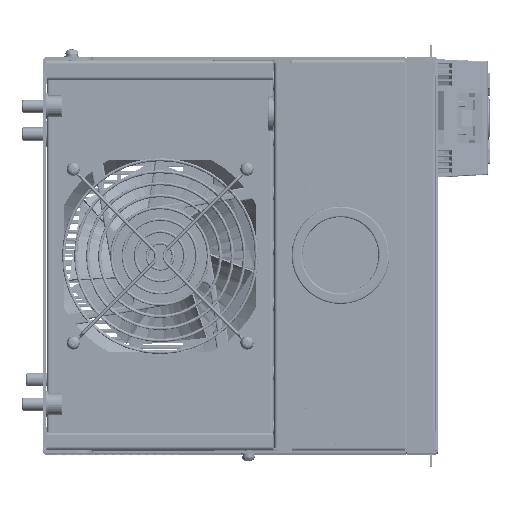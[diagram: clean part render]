
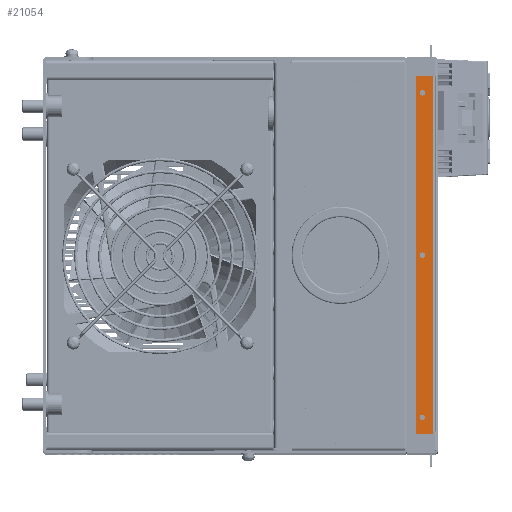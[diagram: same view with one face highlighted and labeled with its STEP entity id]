
A CAD part, top view. The second image highlights one B-rep face of the part: STEP entity #21054.
In plain terms, the highlighted planar face has unit normal (0, 0, 1) as drawn and (0, -1, 0) by its records, which use the part's own axes.
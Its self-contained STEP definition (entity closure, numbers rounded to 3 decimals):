
#4169 = EDGE_CURVE ( 'NONE', #134283, #94419, #17187, .T. ) ;
#11152 = ORIENTED_EDGE ( 'NONE', *, *, #43617, .F. ) ;
#12302 = ORIENTED_EDGE ( 'NONE', *, *, #25440, .F. ) ;
#13213 = DIRECTION ( 'NONE',  ( 0., 0., 1. ) ) ;
#15390 = CIRCLE ( 'NONE', #274985, 1.65 ) ;
#16403 = AXIS2_PLACEMENT_3D ( 'NONE', #294779, #157751, #20810 ) ;
#17187 = LINE ( 'NONE', #48702, #92526 ) ;
#17479 = VERTEX_POINT ( 'NONE', #196697 ) ;
#20810 = DIRECTION ( 'NONE',  ( 0., 0., -1. ) ) ;
#21054 = ADVANCED_FACE ( 'NONE', ( #225677, #232859, #286363, #50295 ), #243810, .T. ) ;
#25440 = EDGE_CURVE ( 'NONE', #101013, #159792, #165494, .T. ) ;
#33404 = CIRCLE ( 'NONE', #67736, 1.65 ) ;
#34847 = CARTESIAN_POINT ( 'NONE',  ( -108., -117.75, -1.7 ) ) ;
#36729 = CARTESIAN_POINT ( 'NONE',  ( 0., -117.75, 0. ) ) ;
#39673 = DIRECTION ( 'NONE',  ( -1., 0., 0. ) ) ;
#43617 = EDGE_CURVE ( 'NONE', #165559, #94419, #46604, .T. ) ;
#43813 = ORIENTED_EDGE ( 'NONE', *, *, #138802, .F. ) ;
#46604 = LINE ( 'NONE', #192217, #282678 ) ;
#47033 = VECTOR ( 'NONE', #233938, 1000. ) ;
#47230 = CARTESIAN_POINT ( 'NONE',  ( -98., -117.75, -9.65 ) ) ;
#47831 = DIRECTION ( 'NONE',  ( 0., -1., 0. ) ) ;
#48702 = CARTESIAN_POINT ( 'NONE',  ( 0., -117.75, -1.7 ) ) ;
#48838 = ORIENTED_EDGE ( 'NONE', *, *, #210475, .T. ) ;
#49002 = LINE ( 'NONE', #153665, #285053 ) ;
#50295 = FACE_BOUND ( 'NONE', #119806, .T. ) ;
#52662 = DIRECTION ( 'NONE',  ( 0., -1., 0. ) ) ;
#56044 = CARTESIAN_POINT ( 'NONE',  ( -108., -117.75, -12. ) ) ;
#64979 = CARTESIAN_POINT ( 'NONE',  ( 98., -117.75, -8. ) ) ;
#66701 = CIRCLE ( 'NONE', #175137, 1.65 ) ;
#67736 = AXIS2_PLACEMENT_3D ( 'NONE', #184786, #47831, #207771 ) ;
#71859 = EDGE_CURVE ( 'NONE', #271321, #165559, #290278, .T. ) ;
#84948 = CARTESIAN_POINT ( 'NONE',  ( 0., -117.75, -8. ) ) ;
#88062 = DIRECTION ( 'NONE',  ( 0., 0., -1. ) ) ;
#89084 = CARTESIAN_POINT ( 'NONE',  ( 0., -117.75, -9.65 ) ) ;
#91265 = CARTESIAN_POINT ( 'NONE',  ( 98., -117.75, -9.65 ) ) ;
#92145 = EDGE_CURVE ( 'NONE', #175312, #178114, #226639, .T. ) ;
#92526 = VECTOR ( 'NONE', #207681, 1000. ) ;
#94419 = VERTEX_POINT ( 'NONE', #34847 ) ;
#96641 = CARTESIAN_POINT ( 'NONE',  ( 0., -117.75, -8. ) ) ;
#98054 = EDGE_LOOP ( 'NONE', ( #12302, #43813 ) ) ;
#101013 = VERTEX_POINT ( 'NONE', #89084 ) ;
#102164 = AXIS2_PLACEMENT_3D ( 'NONE', #36729, #289670, #152693 ) ;
#107877 = DIRECTION ( 'NONE',  ( 0., 0., -1. ) ) ;
#109077 = AXIS2_PLACEMENT_3D ( 'NONE', #189628, #52662, #212648 ) ;
#119528 = DIRECTION ( 'NONE',  ( 0., 0., -1. ) ) ;
#119806 = EDGE_LOOP ( 'NONE', ( #296802, #144064 ) ) ;
#120466 = EDGE_LOOP ( 'NONE', ( #208862, #48838, #226461, #11152, #158937 ) ) ;
#122884 = CARTESIAN_POINT ( 'NONE',  ( -98., -117.75, -6.35 ) ) ;
#134283 = VERTEX_POINT ( 'NONE', #212311 ) ;
#138802 = EDGE_CURVE ( 'NONE', #159792, #101013, #15390, .T. ) ;
#144064 = ORIENTED_EDGE ( 'NONE', *, *, #192169, .F. ) ;
#152124 = VECTOR ( 'NONE', #252118, 1000. ) ;
#152693 = DIRECTION ( 'NONE',  ( -1., 0., 0. ) ) ;
#153665 = CARTESIAN_POINT ( 'NONE',  ( 0., -117.75, -1.7 ) ) ;
#153792 = CARTESIAN_POINT ( 'NONE',  ( 0., -117.75, -6.35 ) ) ;
#157751 = DIRECTION ( 'NONE',  ( 0., -1., 0. ) ) ;
#158937 = ORIENTED_EDGE ( 'NONE', *, *, #71859, .F. ) ;
#159792 = VERTEX_POINT ( 'NONE', #153792 ) ;
#165494 = CIRCLE ( 'NONE', #258053, 1.65 ) ;
#165559 = VERTEX_POINT ( 'NONE', #56044 ) ;
#175137 = AXIS2_PLACEMENT_3D ( 'NONE', #64979, #224928, #88062 ) ;
#175312 = VERTEX_POINT ( 'NONE', #47230 ) ;
#178114 = VERTEX_POINT ( 'NONE', #122884 ) ;
#179455 = EDGE_CURVE ( 'NONE', #17479, #271321, #212965, .T. ) ;
#184786 = CARTESIAN_POINT ( 'NONE',  ( 98., -117.75, -8. ) ) ;
#189628 = CARTESIAN_POINT ( 'NONE',  ( -98., -117.75, -8. ) ) ;
#192169 = EDGE_CURVE ( 'NONE', #281227, #279887, #33404, .T. ) ;
#192217 = CARTESIAN_POINT ( 'NONE',  ( -108., -117.75, -1.5 ) ) ;
#196697 = CARTESIAN_POINT ( 'NONE',  ( 108., -117.75, -1.7 ) ) ;
#203173 = CARTESIAN_POINT ( 'NONE',  ( 98., -117.75, -6.35 ) ) ;
#206017 = CARTESIAN_POINT ( 'NONE',  ( 108., -117.75, -12. ) ) ;
#207681 = DIRECTION ( 'NONE',  ( -1., 0., 0. ) ) ;
#207771 = DIRECTION ( 'NONE',  ( 0., 0., -1. ) ) ;
#208219 = EDGE_CURVE ( 'NONE', #178114, #175312, #250743, .T. ) ;
#208862 = ORIENTED_EDGE ( 'NONE', *, *, #179455, .F. ) ;
#210475 = EDGE_CURVE ( 'NONE', #17479, #134283, #49002, .T. ) ;
#212311 = CARTESIAN_POINT ( 'NONE',  ( 106.3, -117.75, -1.7 ) ) ;
#212648 = DIRECTION ( 'NONE',  ( 0., 0., -1. ) ) ;
#212965 = LINE ( 'NONE', #206017, #152124 ) ;
#224928 = DIRECTION ( 'NONE',  ( 0., -1., 0. ) ) ;
#225677 = FACE_OUTER_BOUND ( 'NONE', #120466, .T. ) ;
#226219 = EDGE_LOOP ( 'NONE', ( #232860, #287866 ) ) ;
#226461 = ORIENTED_EDGE ( 'NONE', *, *, #4169, .T. ) ;
#226639 = CIRCLE ( 'NONE', #16403, 1.65 ) ;
#232859 = FACE_BOUND ( 'NONE', #98054, .T. ) ;
#232860 = ORIENTED_EDGE ( 'NONE', *, *, #92145, .F. ) ;
#233938 = DIRECTION ( 'NONE',  ( -1., 0., 0. ) ) ;
#234944 = EDGE_CURVE ( 'NONE', #279887, #281227, #66701, .T. ) ;
#243810 = PLANE ( 'NONE',  #102164 ) ;
#244836 = DIRECTION ( 'NONE',  ( 0., -1., 0. ) ) ;
#250743 = CIRCLE ( 'NONE', #109077, 1.65 ) ;
#252118 = DIRECTION ( 'NONE',  ( 0., 0., -1. ) ) ;
#256522 = DIRECTION ( 'NONE',  ( 0., -1., 0. ) ) ;
#256920 = CARTESIAN_POINT ( 'NONE',  ( -108., -117.75, -12. ) ) ;
#258053 = AXIS2_PLACEMENT_3D ( 'NONE', #84948, #244836, #107877 ) ;
#267073 = CARTESIAN_POINT ( 'NONE',  ( 108., -117.75, -12. ) ) ;
#271321 = VERTEX_POINT ( 'NONE', #267073 ) ;
#274985 = AXIS2_PLACEMENT_3D ( 'NONE', #96641, #256522, #119528 ) ;
#279887 = VERTEX_POINT ( 'NONE', #91265 ) ;
#281227 = VERTEX_POINT ( 'NONE', #203173 ) ;
#282678 = VECTOR ( 'NONE', #13213, 1000. ) ;
#285053 = VECTOR ( 'NONE', #39673, 1000. ) ;
#286363 = FACE_BOUND ( 'NONE', #226219, .T. ) ;
#287866 = ORIENTED_EDGE ( 'NONE', *, *, #208219, .F. ) ;
#289670 = DIRECTION ( 'NONE',  ( 0., -1., 0. ) ) ;
#290278 = LINE ( 'NONE', #256920, #47033 ) ;
#294779 = CARTESIAN_POINT ( 'NONE',  ( -98., -117.75, -8. ) ) ;
#296802 = ORIENTED_EDGE ( 'NONE', *, *, #234944, .F. ) ;
